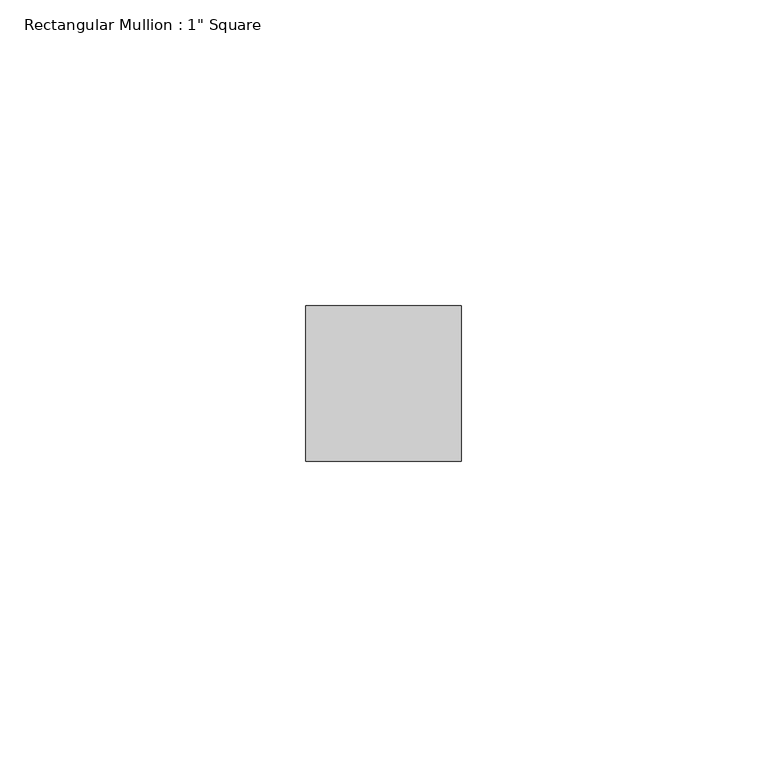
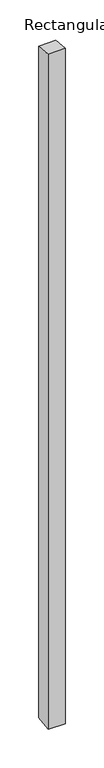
"""IFC4 building model written with IfcOpenShell, lengths in millimetres: member geometry."""

import ifcopenshell
import ifcopenshell.guid

model = None  # the IFC model being written
_history = None  # IfcOwnerHistory: only IFC2X3 demands one
_inside = {}  # id of a spatial element -> (the spatial element, [elements in it])
_under = {}  # id of a project, library or spatial element -> (it, [spatial elements below it])
_declared = {}  # id of a project -> (the project, [libraries it declares])
_typed = {}  # id of a type object -> (the type object, [elements of that type])
_made_of = {}  # id of a material, layer set ... -> (it, [elements and type objects made of it])


def new_model(schema):
    """Start an empty IFC model of exactly this schema.

    Asked for "IFC4X3", IfcOpenShell would pick the latest addendum, in which some entities
    have other attributes; the version numbers below select the first issue.
    IFC2X3 requires an IfcOwnerHistory on every rooted entity: one is made here for all.
    """
    global model, _history
    if schema == "IFC4X3":
        model = ifcopenshell.file(schema_version=(4, 3, 0, 0))
    else:
        model = ifcopenshell.file(schema=schema)
    _inside.clear()
    _under.clear()
    _declared.clear()
    _typed.clear()
    _made_of.clear()
    _history = None
    if model.schema == "IFC2X3":
        org = make("IfcOrganization", Name="unknown")
        user = make(
            "IfcPersonAndOrganization",
            ThePerson=make("IfcPerson", FamilyName="unknown"),
            TheOrganization=org,
        )
        app = make(
            "IfcApplication",
            ApplicationDeveloper=org,
            Version="unknown",
            ApplicationFullName="unknown",
            ApplicationIdentifier="unknown",
        )
        _history = make(
            "IfcOwnerHistory",
            OwningUser=user,
            OwningApplication=app,
            ChangeAction="ADDED",
            CreationDate=0,
        )
    return model


def make(cls, **values):
    """One entity of the class cls with the attributes given. An attribute that is None is left unset."""
    return model.create_entity(
        cls, **{name: value for name, value in values.items() if value is not None}
    )


def rooted(cls, **values):
    """An entity with a GlobalId (a new one), such as an element, a storey or a relation."""
    return make(cls, GlobalId=ifcopenshell.guid.new(), OwnerHistory=_history, **values)


def si_unit(unit_type, name, prefix=None):
    """IfcSIUnit, for example si_unit("LENGTHUNIT", "METRE", prefix="MILLI")."""
    return make("IfcSIUnit", UnitType=unit_type, Prefix=prefix, Name=name)


def assignment(units):
    """IfcUnitAssignment: the units of a project."""
    return None if units is None else make("IfcUnitAssignment", Units=units)


def point(xyz):
    """IfcCartesianPoint."""
    return None if xyz is None else make("IfcCartesianPoint", Coordinates=xyz)


def direction(xyz):
    """IfcDirection."""
    return None if xyz is None else make("IfcDirection", DirectionRatios=xyz)


def frame(location, z_axis=None, x_axis=None):
    """IfcAxis2Placement3D, a coordinate frame: its origin and axes. An axis left out is left unset."""
    return make(
        "IfcAxis2Placement3D",
        Location=point(location),
        Axis=direction(z_axis),
        RefDirection=direction(x_axis),
    )


def origin():
    """The frame at (0, 0, 0) with its axes left unset."""
    return frame((0.0, 0.0, 0.0))


def place(relative_to, where):
    """IfcLocalPlacement: puts the frame where relative to a parent placement (None: the world)."""
    return make(
        "IfcLocalPlacement", PlacementRelTo=relative_to, RelativePlacement=where
    )


def context(
    kind, dimensions, precision=None, world=None, true_north=None, identifier=None
):
    """IfcGeometricRepresentationContext, for example the 3D "Model" context."""
    return make(
        "IfcGeometricRepresentationContext",
        ContextIdentifier=identifier,
        ContextType=kind,
        CoordinateSpaceDimension=dimensions,
        Precision=precision,
        WorldCoordinateSystem=world,
        TrueNorth=true_north,
    )


def project(units=None, contexts=None):
    """IfcProject with its units and contexts."""
    return rooted(
        "IfcProject",
        Name="project",
        RepresentationContexts=contexts,
        UnitsInContext=assignment(units),
    )


def spatial(cls, under=None, at=None, **own):
    """A site, building, storey or space (cls), placed at a placement, below another one or the project."""
    s = rooted(cls, ObjectPlacement=at, **own)
    if under is not None:
        _under.setdefault(under.id(), (under, []))[1].append(s)
    return s


def faces_of(points, faces, orient=None, outer=None):
    """IfcFace entities. A face is a list of loops; a loop is a list of indices into points, from 0.

    orient and outer hold one flag for each loop. By default every Orientation is true, the
    first loop of a face is its IfcFaceOuterBound and the others are IfcFaceBound.
    """
    made = []
    for i, loops in enumerate(faces):
        bounds = []
        for j, loop in enumerate(loops):
            is_outer = j == 0 if outer is None else outer[i][j]
            bounds.append(
                make(
                    "IfcFaceOuterBound" if is_outer else "IfcFaceBound",
                    Bound=make("IfcPolyLoop", Polygon=[points[k] for k in loop]),
                    Orientation=True if orient is None else orient[i][j],
                )
            )
        made.append(make("IfcFace", Bounds=bounds))
    return made


def faceted_brep(points, faces, orient=None, outer=None, voids=None):
    """IfcFacetedBrep: a solid bounded by flat faces; with voids (closed shells), ...WithVoids."""
    shared = [point(p) for p in points]
    hull = make("IfcClosedShell", CfsFaces=faces_of(shared, faces, orient, outer))
    if voids is None:
        return make("IfcFacetedBrep", Outer=hull)
    return make(
        "IfcFacetedBrepWithVoids",
        Outer=hull,
        Voids=[
            make(cls, CfsFaces=faces_of(shared, fs, o, b)) for cls, fs, o, b in voids
        ],
    )


def shape(context_of_items, identifier, shape_type, items):
    """IfcShapeRepresentation: the items that make up one representation, for example the "Body"."""
    return make(
        "IfcShapeRepresentation",
        ContextOfItems=context_of_items,
        RepresentationIdentifier=identifier,
        RepresentationType=shape_type,
        Items=items,
    )


def source(mapping_origin, context_of_items, identifier, shape_type, items):
    """IfcRepresentationMap: a shape defined once, which mapped items show again and again."""
    return make(
        "IfcRepresentationMap",
        MappingOrigin=mapping_origin,
        MappedRepresentation=shape(context_of_items, identifier, shape_type, items),
    )


def transform(
    local_origin,
    x_axis=None,
    y_axis=None,
    z_axis=None,
    scale=None,
    scale2=None,
    scale3=None,
    uniform=True,
):
    """IfcCartesianTransformationOperator3D, or its non-uniform kind. x_axis, y_axis, z_axis: its Axis1, 2, 3."""
    if uniform:
        return make(
            "IfcCartesianTransformationOperator3D",
            Axis1=direction(x_axis),
            Axis2=direction(y_axis),
            LocalOrigin=point(local_origin),
            Scale=scale,
            Axis3=direction(z_axis),
        )
    return make(
        "IfcCartesianTransformationOperator3DnonUniform",
        Axis1=direction(x_axis),
        Axis2=direction(y_axis),
        LocalOrigin=point(local_origin),
        Scale=scale,
        Axis3=direction(z_axis),
        Scale2=scale2,
        Scale3=scale3,
    )


def mapped(mapping_source, mapping_target):
    """IfcMappedItem: shows the shape of a source again, moved by a transform."""
    return make(
        "IfcMappedItem", MappingSource=mapping_source, MappingTarget=mapping_target
    )


def made_of(thing, what):
    """Note that an element or type object is made of a material, layer set ...; save() writes the relation."""
    if what is not None:
        _made_of.setdefault(what.id(), (what, []))[1].append(thing)
    return thing


def element(
    cls,
    number,
    at=None,
    inside=None,
    cuts=None,
    type_object=None,
    material=None,
    context=None,
    identifier="Body",
    shape_type=None,
    held_by="IfcProductDefinitionShape",
    body=None,
    shapes=None,
    **own,
):
    """One element of the class cls, such as IfcWall. Its Tag is "e" and its number.

    at: its placement. inside: the storey or other place that contains it. cuts: it is an
    opening in that element (IfcRelVoidsElement). A single representation is given by context,
    identifier, shape_type and body (its items); several are given by shapes. held_by: the class
    of the entity that holds the representations. save() writes the other relations.
    """
    e = rooted(cls, Tag="e%d" % number, ObjectPlacement=at, **own)
    if body is not None:
        shapes = [shape(context, identifier, shape_type, body)]
    if shapes is not None:
        e.Representation = make(held_by, Representations=shapes)
    if inside is not None:
        _inside.setdefault(inside.id(), (inside, []))[1].append(e)
    if cuts is not None:
        rooted(
            "IfcRelVoidsElement", RelatingBuildingElement=cuts, RelatedOpeningElement=e
        )
    if type_object is not None:
        _typed.setdefault(type_object.id(), (type_object, []))[1].append(e)
    return made_of(e, material)


def aggregate(whole, parts):
    """IfcRelAggregates: a whole, such as a stair, and the parts it consists of."""
    return rooted("IfcRelAggregates", RelatingObject=whole, RelatedObjects=parts)


def save(model, path):
    """Write the relations noted so far, then the file.

    IfcRelAggregates (storeys below a building ...), IfcRelContainedInSpatialStructure (elements
    in a storey), IfcRelDefinesByType, IfcRelAssociatesMaterial and IfcRelDeclares: one each for
    every whole, place, type object, material and project.
    """
    for whole, parts in _under.values():
        aggregate(whole, parts)
    for where, things in _inside.values():
        rooted(
            "IfcRelContainedInSpatialStructure",
            RelatedElements=things,
            RelatingStructure=where,
        )
    for kind, things in _typed.values():
        rooted("IfcRelDefinesByType", RelatedObjects=things, RelatingType=kind)
    for what, things in _made_of.values():
        rooted("IfcRelAssociatesMaterial", RelatedObjects=things, RelatingMaterial=what)
    for by, libraries in _declared.values():
        rooted("IfcRelDeclares", RelatingContext=by, RelatedDefinitions=libraries)
    model.write(path)


def member_55a47f1e(model_context):
    return source(origin(), model_context, "Body", "Brep", [
        faceted_brep([(-25.4, 12.7, -1.9749759), (0.0, 12.7, -1.4157503), (0.0, 12.7, -1065.3842497), (-25.4, 12.7, -1064.8250241), (-25.4, -12.7, 0.8565247), (-25.4, -12.7, -1067.6565247), (0.0, -12.7, 1.4157503), (0.0, -12.7, -1068.2157503)], [[[0, 1, 2, 3]], [[4, 0, 3, 5]], [[6, 4, 5, 7]], [[1, 6, 7, 2]], [[1, 0, 4, 6]], [[2, 7, 5, 3]]]),
    ])


if __name__ == "__main__":
    model = new_model("IFC4")
    model_context = context("Model", 3, world=origin())
    ifc_project = project(units=[si_unit("LENGTHUNIT", "METRE", prefix="MILLI")], contexts=[model_context])
    site = spatial("IfcSite", under=ifc_project)
    building = spatial("IfcBuilding", under=site)
    placement = place(None, origin())
    member_shape = member_55a47f1e(model_context)
    element("IfcMember", 1, ObjectType="Rectangular Mullion : 1\" Square", at=placement, inside=building, context=model_context, shape_type="MappedRepresentation", body=[
        mapped(member_shape, transform((0.0, 0.0, 0.0), x_axis=(1.0, 0.0, 0.0), y_axis=(0.0, 1.0, 0.0), z_axis=(0.0, 0.0, 1.0))),
    ])
    save(model, "model.ifc")
